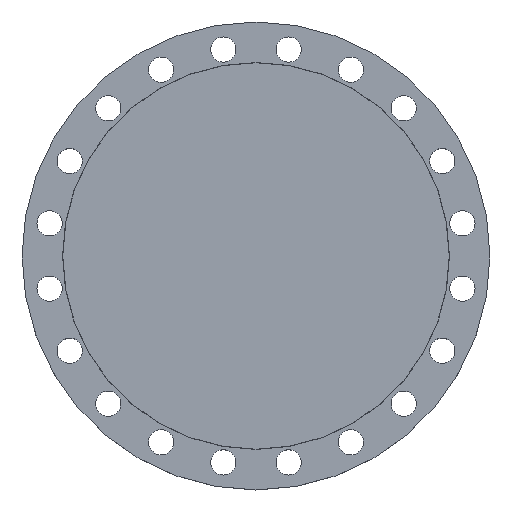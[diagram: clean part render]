
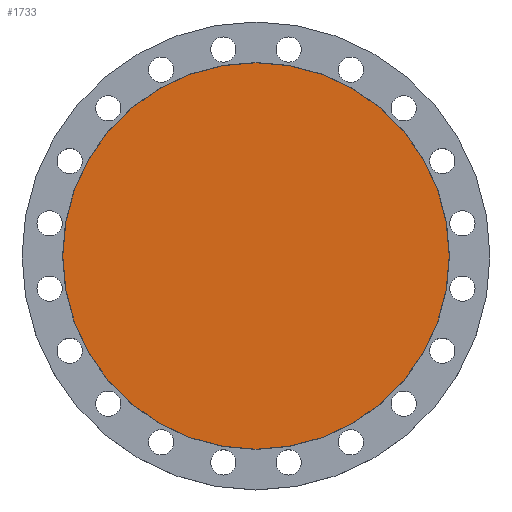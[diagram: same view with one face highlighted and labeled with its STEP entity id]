
A CAD part, top view. The second image highlights one B-rep face of the part: STEP entity #1733.
In plain terms, the highlighted planar face has unit normal (0, 0, 1).
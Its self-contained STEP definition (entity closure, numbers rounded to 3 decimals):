
#102 = CIRCLE ( 'NONE', #106, 367.5 ) ;
#106 = AXIS2_PLACEMENT_3D ( 'NONE', #434, #433, #432 ) ;
#174 = CIRCLE ( 'NONE', #899, 367.5 ) ;
#225 = DIRECTION ( 'NONE',  ( 1., 0., 0. ) ) ;
#226 = DIRECTION ( 'NONE',  ( 0., 0., 1. ) ) ;
#227 = CARTESIAN_POINT ( 'NONE',  ( 0., 0., 0. ) ) ;
#229 = PLANE ( 'NONE',  #243 ) ;
#230 = FACE_OUTER_BOUND ( 'NONE', #1706, .T. ) ;
#243 = AXIS2_PLACEMENT_3D ( 'NONE', #227, #226, #225 ) ;
#432 = DIRECTION ( 'NONE',  ( -1., 0., 0. ) ) ;
#433 = DIRECTION ( 'NONE',  ( 0., 0., -1. ) ) ;
#434 = CARTESIAN_POINT ( 'NONE',  ( 0., 0., 0. ) ) ;
#543 = CARTESIAN_POINT ( 'NONE',  ( -367.5, 0., 0. ) ) ;
#600 = CARTESIAN_POINT ( 'NONE',  ( 367.5, 0., 0. ) ) ;
#676 = DIRECTION ( 'NONE',  ( -1., 0., 0. ) ) ;
#677 = DIRECTION ( 'NONE',  ( 0., 0., -1. ) ) ;
#678 = CARTESIAN_POINT ( 'NONE',  ( 0., 0., 0. ) ) ;
#899 = AXIS2_PLACEMENT_3D ( 'NONE', #678, #677, #676 ) ;
#1215 = ORIENTED_EDGE ( 'NONE', *, *, #1233, .F. ) ;
#1216 = ORIENTED_EDGE ( 'NONE', *, *, #1558, .F. ) ;
#1233 = EDGE_CURVE ( 'NONE', #1364, #1428, #174, .T. ) ;
#1364 = VERTEX_POINT ( 'NONE', #600 ) ;
#1428 = VERTEX_POINT ( 'NONE', #543 ) ;
#1558 = EDGE_CURVE ( 'NONE', #1428, #1364, #102, .T. ) ;
#1706 = EDGE_LOOP ( 'NONE', ( #1216, #1215 ) ) ;
#1733 = ADVANCED_FACE ( 'NONE', ( #230 ), #229, .T. ) ;
